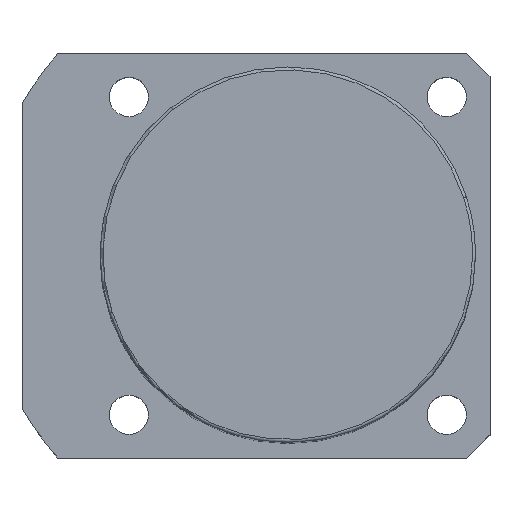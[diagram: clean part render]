
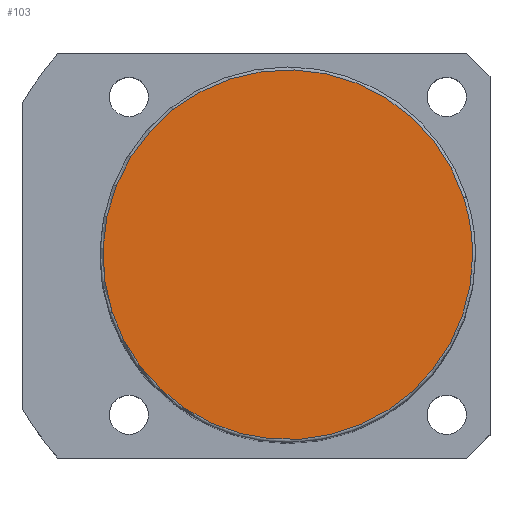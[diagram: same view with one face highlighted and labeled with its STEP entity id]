
A CAD part, top view. The second image highlights one B-rep face of the part: STEP entity #103.
In plain terms, the highlighted planar face has unit normal (0, 0, 1).
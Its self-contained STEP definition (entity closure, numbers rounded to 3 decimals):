
#16=CARTESIAN_POINT('',(-30.434,-9.889,126.0));
#17=VERTEX_POINT('',#16);
#54=CARTESIAN_POINT('',(30.434,9.889,126.0));
#55=VERTEX_POINT('',#54);
#63=CARTESIAN_POINT('',(32.0,0.0,126.0));
#64=VERTEX_POINT('',#63);
#65=CARTESIAN_POINT('',(0.0,0.0,126.0));
#66=DIRECTION('',(0.0,0.0,1.0));
#67=DIRECTION('',(1.0,0.0,0.0));
#68=AXIS2_PLACEMENT_3D('',#65,#66,#67);
#69=CIRCLE('',#68,32.0);
#70=EDGE_CURVE('no 898',#64,#55,#69,.T.);
#72=CARTESIAN_POINT('',(0.0,0.0,126.0));
#73=DIRECTION('',(0.0,0.0,1.0));
#74=DIRECTION('',(1.0,0.0,0.0));
#75=AXIS2_PLACEMENT_3D('',#72,#73,#74);
#76=CIRCLE('',#75,32.0);
#77=EDGE_CURVE('no 902',#17,#64,#76,.T.);
#87=ORIENTED_EDGE('',*,*,#70,.T.);
#88=CARTESIAN_POINT('',(0.0,0.0,126.0));
#89=DIRECTION('',(0.0,0.0,1.0));
#90=DIRECTION('',(1.0,0.0,0.0));
#91=AXIS2_PLACEMENT_3D('',#88,#89,#90);
#92=CIRCLE('',#91,32.0);
#93=EDGE_CURVE('no 911',#55,#17,#92,.T.);
#94=ORIENTED_EDGE('',*,*,#93,.T.);
#95=ORIENTED_EDGE('',*,*,#77,.T.);
#96=EDGE_LOOP('',(#87,#94,#95));
#97=FACE_OUTER_BOUND('',#96,.T.);
#98=CARTESIAN_POINT('',(0.0,0.0,126.0));
#99=DIRECTION('',(0.0,0.0,1.0));
#100=DIRECTION('',(1.0,0.0,0.0));
#101=AXIS2_PLACEMENT_3D('',#98,#99,#100);
#102=PLANE('',#101);
#103=ADVANCED_FACE('no 904',(#97),#102,.T.);
